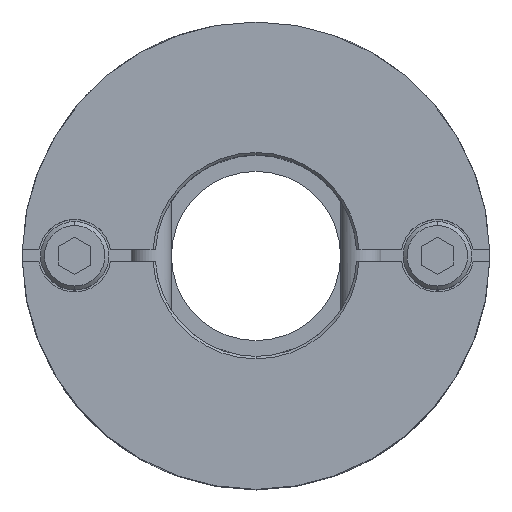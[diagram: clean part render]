
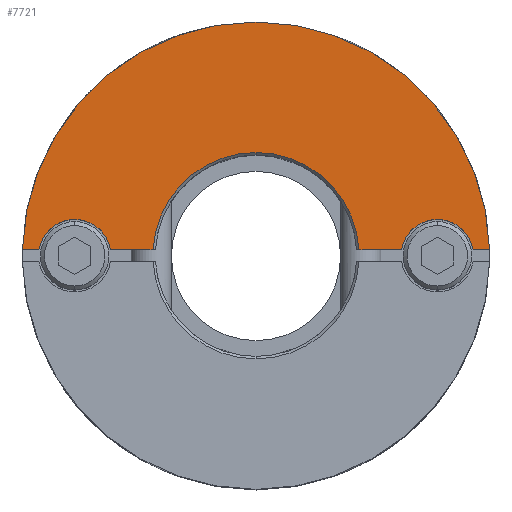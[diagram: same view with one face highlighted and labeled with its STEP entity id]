
A CAD part, top view. The second image highlights one B-rep face of the part: STEP entity #7721.
In plain terms, the highlighted planar face has unit normal (0, 0, 1).
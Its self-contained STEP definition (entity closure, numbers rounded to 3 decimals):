
#605=CARTESIAN_POINT('',(0.,29.,22.4));
#606=VERTEX_POINT('',#605);
#690=CARTESIAN_POINT('',(-28.99,0.75,22.4));
#691=VERTEX_POINT('',#690);
#698=CARTESIAN_POINT('',(0.0,0.,22.4));
#699=DIRECTION('',(0.0,0.0,-1.0));
#700=DIRECTION('',(0.0,1.0,0.0));
#701=AXIS2_PLACEMENT_3D('',#698,#699,#700);
#702=CIRCLE('',#701,29.0);
#703=EDGE_CURVE('',#691,#606,#702,.T.);
#915=CARTESIAN_POINT('',(0.,12.8,22.4));
#916=VERTEX_POINT('',#915);
#925=CARTESIAN_POINT('',(-12.778,0.75,22.4));
#926=VERTEX_POINT('',#925);
#927=CARTESIAN_POINT('',(0.0,0.,22.4));
#928=DIRECTION('',(0.0,0.0,1.0));
#929=DIRECTION('',(0.0,-1.0,0.0));
#930=AXIS2_PLACEMENT_3D('',#927,#928,#929);
#931=CIRCLE('',#930,12.8);
#932=EDGE_CURVE('',#916,#926,#931,.T.);
#1013=CARTESIAN_POINT('',(-22.5,4.5,22.4));
#1014=VERTEX_POINT('',#1013);
#1023=CARTESIAN_POINT('',(-26.937,0.75,22.4));
#1024=VERTEX_POINT('',#1023);
#1025=CARTESIAN_POINT('',(-22.5,0.,22.4));
#1026=DIRECTION('',(0.0,0.0,-1.0));
#1027=DIRECTION('',(0.0,1.0,0.0));
#1028=AXIS2_PLACEMENT_3D('',#1025,#1026,#1027);
#1029=CIRCLE('',#1028,4.5);
#1030=EDGE_CURVE('',#1024,#1014,#1029,.T.);
#1097=CARTESIAN_POINT('',(22.5,4.5,22.4));
#1098=VERTEX_POINT('',#1097);
#1107=CARTESIAN_POINT('',(18.063,0.75,22.4));
#1108=VERTEX_POINT('',#1107);
#1109=CARTESIAN_POINT('',(22.5,0.,22.4));
#1110=DIRECTION('',(0.0,0.0,-1.0));
#1111=DIRECTION('',(0.0,1.0,0.0));
#1112=AXIS2_PLACEMENT_3D('',#1109,#1110,#1111);
#1113=CIRCLE('',#1112,4.5);
#1114=EDGE_CURVE('',#1108,#1098,#1113,.T.);
#6383=CARTESIAN_POINT('',(12.778,0.75,22.4));
#6384=VERTEX_POINT('',#6383);
#6385=CARTESIAN_POINT('',(12.778,0.75,22.4));
#6386=DIRECTION('',(1.0,0.0,0.0));
#6387=VECTOR('',#6386,5.285);
#6388=LINE('',#6385,#6387);
#6389=EDGE_CURVE('',#6384,#1108,#6388,.T.);
#6760=CARTESIAN_POINT('',(-18.063,0.75,22.4));
#6761=VERTEX_POINT('',#6760);
#6762=CARTESIAN_POINT('',(-18.063,0.75,22.4));
#6763=DIRECTION('',(1.0,0.0,0.0));
#6764=VECTOR('',#6763,5.285);
#6765=LINE('',#6762,#6764);
#6766=EDGE_CURVE('',#6761,#926,#6765,.T.);
#7528=CARTESIAN_POINT('',(26.937,0.75,22.4));
#7529=VERTEX_POINT('',#7528);
#7536=CARTESIAN_POINT('',(22.5,0.,22.4));
#7537=DIRECTION('',(0.0,0.0,-1.0));
#7538=DIRECTION('',(0.0,1.0,0.0));
#7539=AXIS2_PLACEMENT_3D('',#7536,#7537,#7538);
#7540=CIRCLE('',#7539,4.5);
#7541=EDGE_CURVE('',#1098,#7529,#7540,.T.);
#7584=CARTESIAN_POINT('',(-22.5,0.,22.4));
#7585=DIRECTION('',(0.0,0.0,-1.0));
#7586=DIRECTION('',(0.0,1.0,0.0));
#7587=AXIS2_PLACEMENT_3D('',#7584,#7585,#7586);
#7588=CIRCLE('',#7587,4.5);
#7589=EDGE_CURVE('',#1014,#6761,#7588,.T.);
#7608=CARTESIAN_POINT('',(28.99,0.75,22.4));
#7609=VERTEX_POINT('',#7608);
#7616=CARTESIAN_POINT('',(26.937,0.75,22.4));
#7617=DIRECTION('',(1.0,0.0,0.0));
#7618=VECTOR('',#7617,2.053);
#7619=LINE('',#7616,#7618);
#7620=EDGE_CURVE('',#7529,#7609,#7619,.T.);
#7685=CARTESIAN_POINT('',(0.,2.636,22.4));
#7686=DIRECTION('',(0.0,0.0,1.0));
#7687=DIRECTION('',(0.0,1.0,0.0));
#7688=AXIS2_PLACEMENT_3D('',#7685,#7686,#7687);
#7689=PLANE('',#7688);
#7690=ORIENTED_EDGE('',*,*,#1114,.T.);
#7691=ORIENTED_EDGE('',*,*,#7541,.T.);
#7692=ORIENTED_EDGE('',*,*,#7620,.T.);
#7693=CARTESIAN_POINT('',(0.0,0.,22.4));
#7694=DIRECTION('',(0.0,0.0,-1.0));
#7695=DIRECTION('',(0.0,1.0,0.0));
#7696=AXIS2_PLACEMENT_3D('',#7693,#7694,#7695);
#7697=CIRCLE('',#7696,29.0);
#7698=EDGE_CURVE('',#606,#7609,#7697,.T.);
#7699=ORIENTED_EDGE('',*,*,#7698,.F.);
#7700=ORIENTED_EDGE('',*,*,#703,.F.);
#7701=CARTESIAN_POINT('',(-28.99,0.75,22.4));
#7702=DIRECTION('',(1.0,0.0,0.0));
#7703=VECTOR('',#7702,2.053);
#7704=LINE('',#7701,#7703);
#7705=EDGE_CURVE('',#691,#1024,#7704,.T.);
#7706=ORIENTED_EDGE('',*,*,#7705,.T.);
#7707=ORIENTED_EDGE('',*,*,#1030,.T.);
#7708=ORIENTED_EDGE('',*,*,#7589,.T.);
#7709=ORIENTED_EDGE('',*,*,#6766,.T.);
#7710=ORIENTED_EDGE('',*,*,#932,.F.);
#7711=CARTESIAN_POINT('',(0.0,0.,22.4));
#7712=DIRECTION('',(0.0,0.0,1.0));
#7713=DIRECTION('',(0.0,-1.0,0.0));
#7714=AXIS2_PLACEMENT_3D('',#7711,#7712,#7713);
#7715=CIRCLE('',#7714,12.8);
#7716=EDGE_CURVE('',#6384,#916,#7715,.T.);
#7717=ORIENTED_EDGE('',*,*,#7716,.F.);
#7718=ORIENTED_EDGE('',*,*,#6389,.T.);
#7719=EDGE_LOOP('',(#7690,#7691,#7692,#7699,#7700,#7706,#7707,#7708,#7709,#7710,#7717,#7718));
#7720=FACE_OUTER_BOUND('',#7719,.T.);
#7721=ADVANCED_FACE('',(#7720),#7689,.T.);
